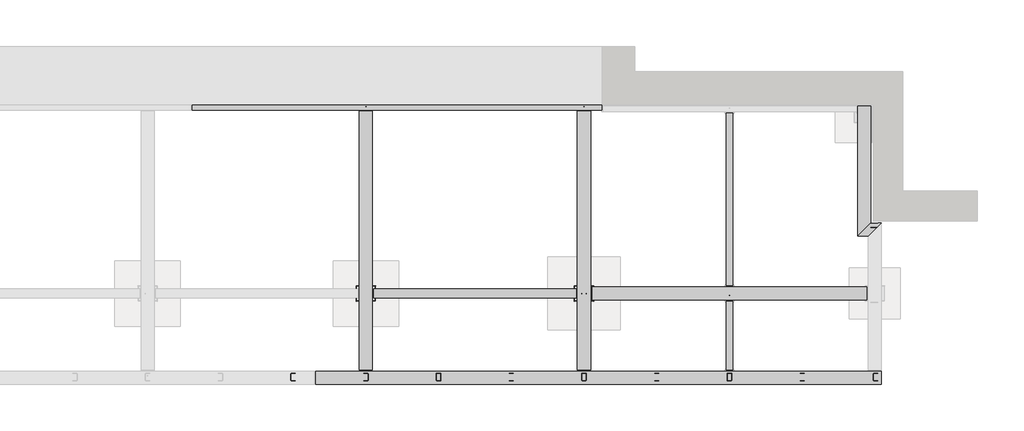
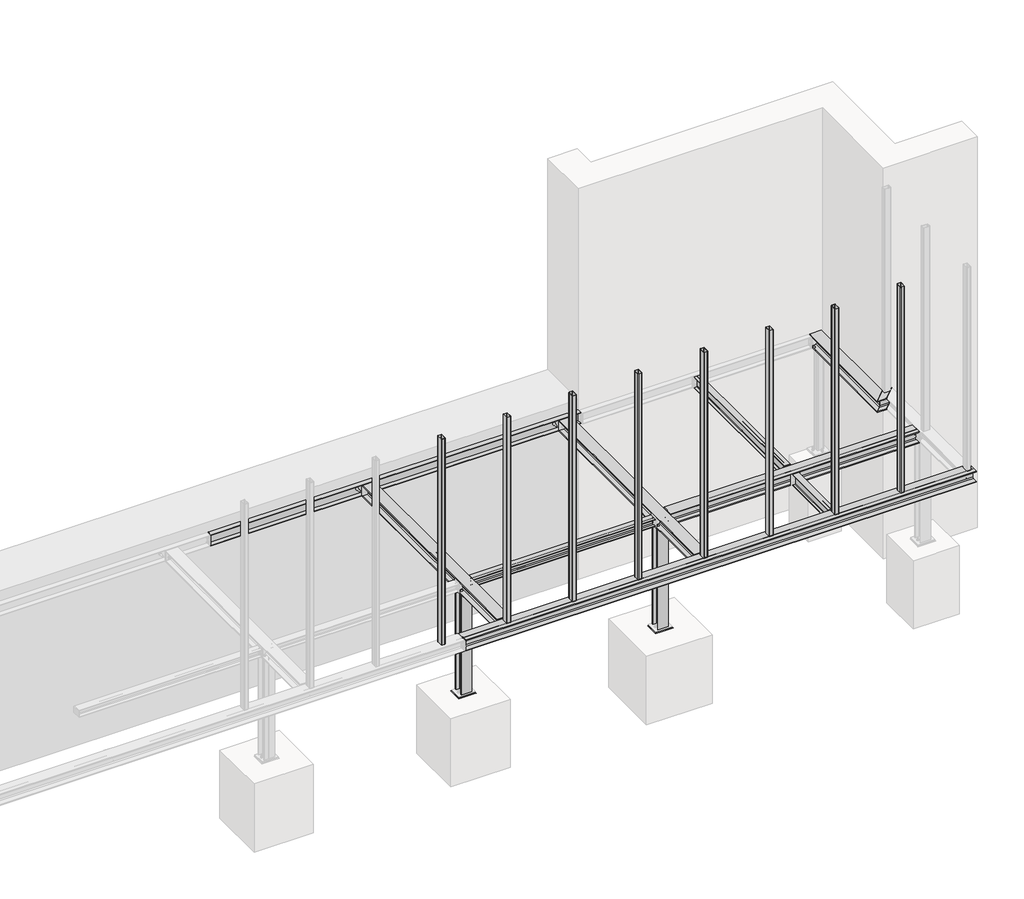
# One storey, part 2 of 31: 10 beams, 10 columns, 2 plates.
"""IFC4 building model written with IfcOpenShell, lengths in millimetres."""

from ifc_helpers import new_model, si_unit, point, frame, frame_2d, origin, place, context, project, spatial, polyline, circle_curve, ellipse_curve, trimmed, segment, composite_curve, outline, extrude, faceted_brep, element, save
from ifc_brep_helpers import plane_surface, revolved_surface, advanced_brep

model = new_model("IFC4")

# Units and contexts
model_context = context("Model", 3, world=origin())
ifc_project = project(units=[si_unit("LENGTHUNIT", "METRE", prefix="MILLI")], contexts=[model_context])

# Site, building, storey
site = spatial("IfcSite", under=ifc_project)
building = spatial("IfcBuilding", under=site)
storey = spatial("IfcBuildingStorey", under=building, Name="Základy", Elevation=-1200.0)

# Beams
placement = place(None, origin())
element("IfcBeam", 1, ObjectType="HEA120", at=placement, inside=storey, context=model_context, shape_type="SweptSolid", body=[
    extrude(outline(composite_curve([segment(polyline([(1200.0, -193.0), (1320.0, -193.0), (1320.0, -201.0), (1274.5, -201.0)]), True, "CONTINUOUS"), segment(trimmed(circle_curve(frame_2d((1274.5, -213.0)), 12.0), [point((1274.5, -201.0))], [point((1262.5, -213.0))], True, "CARTESIAN"), True, "CONTINUOUS"), segment(polyline([(1262.5, -213.0), (1262.5, -287.0)]), True, "CONTINUOUS"), segment(trimmed(circle_curve(frame_2d((1274.5, -287.0)), 12.0), [point((1262.5, -287.0))], [point((1274.5, -299.0))], True, "CARTESIAN"), True, "CONTINUOUS"), segment(polyline([(1274.5, -299.0), (1320.0, -299.0), (1320.0, -307.0), (1200.0, -307.0), (1200.0, -299.0), (1245.5, -299.0)]), True, "CONTINUOUS"), segment(trimmed(circle_curve(frame_2d((1245.5, -287.0)), 12.0), [point((1245.5, -299.0))], [point((1257.5, -287.0))], True, "CARTESIAN"), True, "CONTINUOUS"), segment(polyline([(1257.5, -287.0), (1257.5, -213.0)]), True, "CONTINUOUS"), segment(trimmed(circle_curve(frame_2d((1245.5, -213.0)), 12.0), [point((1257.5, -213.0))], [point((1245.5, -201.0))], True, "CARTESIAN"), True, "CONTINUOUS"), segment(polyline([(1245.5, -201.0), (1200.0, -201.0), (1200.0, -193.0)]), True, "CONTINUOUS")], self_intersect=False)), frame((9160.0, 0.0, 0.0), z_axis=(1.0, 0.0, 0.0), x_axis=(0.0, 1.0, 0.0)), (0.0, 0.0, 1.0), 2780.0),
])
element("IfcBeam", 2, ObjectType="HEB180", at=placement, inside=storey, context=model_context, shape_type="AdvancedBrep", body=[
    advanced_brep(
    [(15960.0, 2050.0, -160.0), (16140.0, 2230.0, -160.0), (15995.0, 2230.0, -160.0), (15815.0, 2050.0, -160.0), (15960.0, 2050.0, -174.0), (15815.0, 2050.0, -174.0), (16030.75, 2120.75, -174.0), (15885.75, 2120.75, -174.0), (16045.75, 2135.75, -189.0), (15900.75, 2135.75, -189.0), (16045.75, 2135.75, -311.0), (15900.75, 2135.75, -311.0), (16030.75, 2120.75, -326.0), (15885.75, 2120.75, -326.0), (15960.0, 2050.0, -326.0), (15815.0, 2050.0, -326.0), (15960.0, 2050.0, -340.0), (15815.0, 2050.0, -340.0), (16140.0, 2230.0, -340.0), (15995.0, 2230.0, -340.0), (16140.0, 2230.0, -326.0), (15995.0, 2230.0, -326.0), (16069.25, 2159.25, -326.0), (15924.25, 2159.25, -326.0), (16054.25, 2144.25, -311.0), (15909.25, 2144.25, -311.0), (16054.25, 2144.25, -189.0), (15909.25, 2144.25, -189.0), (16069.25, 2159.25, -174.0), (15924.25, 2159.25, -174.0), (16140.0, 2230.0, -174.0), (15995.0, 2230.0, -174.0)],
    [
        (0, 1),
        (1, 2),
        (2, 3),
        (3, 0),
        (4, 0),
        (3, 5),
        (5, 4),
        (6, 4),
        (5, 7),
        (7, 6),
        (8, 6, ellipse_curve(frame((16030.75, 2120.75, -189.0), z_axis=(0.7071067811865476, -0.7071067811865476, 0.0), x_axis=(-0.7071067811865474, -0.7071067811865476, 0.0)), 21.2132034, 15.0)),
        (7, 9, ellipse_curve(frame((15885.75, 2120.75, -189.0), z_axis=(-0.7071067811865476, 0.7071067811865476, 0.0), x_axis=(-0.7071067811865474, -0.7071067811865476, 0.0)), 21.2132034, 15.0)),
        (9, 8),
        (10, 8),
        (9, 11),
        (11, 10),
        (12, 10, ellipse_curve(frame((16030.75, 2120.75, -311.0), z_axis=(0.7071067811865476, -0.7071067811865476, 0.0), x_axis=(-0.7071067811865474, -0.7071067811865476, 0.0)), 21.2132034, 15.0)),
        (11, 13, ellipse_curve(frame((15885.75, 2120.75, -311.0), z_axis=(-0.7071067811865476, 0.7071067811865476, 0.0), x_axis=(-0.7071067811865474, -0.7071067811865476, 0.0)), 21.2132034, 15.0)),
        (13, 12),
        (14, 12),
        (13, 15),
        (15, 14),
        (16, 14),
        (15, 17),
        (17, 16),
        (18, 16),
        (17, 19),
        (19, 18),
        (20, 18),
        (19, 21),
        (21, 20),
        (22, 20),
        (21, 23),
        (23, 22),
        (24, 22, ellipse_curve(frame((16069.25, 2159.25, -311.0), z_axis=(0.7071067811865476, -0.7071067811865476, 0.0), x_axis=(-0.7071067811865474, -0.7071067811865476, 0.0)), 21.2132034, 15.0)),
        (23, 25, ellipse_curve(frame((15924.25, 2159.25, -311.0), z_axis=(-0.7071067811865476, 0.7071067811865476, 0.0), x_axis=(-0.7071067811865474, -0.7071067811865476, 0.0)), 21.2132034, 15.0)),
        (25, 24),
        (26, 24),
        (25, 27),
        (27, 26),
        (28, 26, ellipse_curve(frame((16069.25, 2159.25, -189.0), z_axis=(0.7071067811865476, -0.7071067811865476, 0.0), x_axis=(-0.7071067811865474, -0.7071067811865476, 0.0)), 21.2132034, 15.0)),
        (27, 29, ellipse_curve(frame((15924.25, 2159.25, -189.0), z_axis=(-0.7071067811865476, 0.7071067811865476, 0.0), x_axis=(-0.7071067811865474, -0.7071067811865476, 0.0)), 21.2132034, 15.0)),
        (29, 28),
        (30, 28),
        (29, 31),
        (31, 30),
        (1, 30),
        (31, 2),
    ],
    [
        plane_surface(frame((16150.0, 2230.0, -160.0), z_axis=(0.0, 0.0, 1.0), x_axis=(-1.0, 0.0, 0.0))),
        plane_surface(frame((16150.0, 2050.0, -160.0), z_axis=(0.0, -1.0, 0.0), x_axis=(-1.0, 0.0, 0.0))),
        plane_surface(frame((16150.0, 2050.0, -174.0), z_axis=(0.0, 0.0, -1.0), x_axis=(-1.0, 0.0, 0.0))),
        revolved_surface(polyline([(15870.750000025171, 2105.75, -189.0), (16045.75, 2105.75, -189.0)]), (15805.0, 2120.75, -189.0), (-1.0, 0.0, 0.0)),
        plane_surface(frame((16150.0, 2135.75, -189.0), z_axis=(0.0, -1.0, 0.0), x_axis=(-1.0, 0.0, 0.0))),
        revolved_surface(polyline([(15870.750000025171, 2105.75, -311.0), (16045.75, 2105.75, -311.0)]), (15805.0, 2120.75, -311.0), (-1.0, 0.0, 0.0)),
        plane_surface(frame((16150.0, 2120.75, -326.0), z_axis=(0.0, 0.0, 1.0), x_axis=(-1.0, 0.0, 0.0))),
        plane_surface(frame((16150.0, 2050.0, -326.0), z_axis=(0.0, -1.0, 0.0), x_axis=(-1.0, 0.0, 0.0))),
        plane_surface(frame((16150.0, 2050.0, -340.0), z_axis=(0.0, 0.0, -1.0), x_axis=(-1.0, 0.0, 0.0))),
        plane_surface(frame((16150.0, 2230.0, -340.0), z_axis=(0.0, 1.0, 0.0), x_axis=(-1.0, 0.0, 0.0))),
        plane_surface(frame((16150.0, 2230.0, -326.0), z_axis=(0.0, 0.0, 1.0), x_axis=(-1.0, 0.0, 0.0))),
        revolved_surface(polyline([(15909.25, 2144.25, -311.0), (16084.249999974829, 2144.25, -311.0)]), (15805.0, 2159.25, -311.0), (-1.0, 0.0, 0.0)),
        plane_surface(frame((16150.0, 2144.25, -311.0), z_axis=(0.0, 1.0, 0.0), x_axis=(-1.0, 0.0, 0.0))),
        revolved_surface(polyline([(15909.25, 2144.25, -189.0), (16084.249999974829, 2144.25, -189.0)]), (15805.0, 2159.25, -189.0), (-1.0, 0.0, 0.0)),
        plane_surface(frame((16150.0, 2159.25, -174.0), z_axis=(0.0, 0.0, -1.0), x_axis=(-1.0, 0.0, 0.0))),
        plane_surface(frame((16150.0, 2230.0, -174.0), z_axis=(0.0, 1.0, 0.0), x_axis=(-1.0, 0.0, 0.0))),
        plane_surface(frame((16150.0, 2240.0, -160.0), z_axis=(0.7071067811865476, -0.7071067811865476, 0.0), x_axis=(0.7071067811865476, 0.7071067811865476, 0.0))),
        plane_surface(frame((15805.0, 2040.0, -160.0), z_axis=(-0.7071067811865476, 0.7071067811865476, 0.0), x_axis=(0.7071067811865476, 0.7071067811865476, 0.0))),
    ],
    [
        (0, [[1, 2, 3, 4]]),
        (1, [[5, -4, 6, 7]]),
        (2, [[8, -7, 9, 10]]),
        (3, [[11, -10, 12, 13]]),
        (4, [[14, -13, 15, 16]]),
        (5, [[17, -16, 18, 19]]),
        (6, [[20, -19, 21, 22]]),
        (7, [[23, -22, 24, 25]]),
        (8, [[26, -25, 27, 28]]),
        (9, [[29, -28, 30, 31]]),
        (10, [[32, -31, 33, 34]]),
        (11, [[35, -34, 36, 37]]),
        (12, [[38, -37, 39, 40]]),
        (13, [[41, -40, 42, 43]]),
        (14, [[44, -43, 45, 46]]),
        (15, [[47, -46, 48, -2]]),
        (16, [[-1, -5, -8, -11, -14, -17, -20, -23, -26, -29, -32, -35, -38, -41, -44, -47]]),
        (17, [[-3, -48, -45, -42, -39, -36, -33, -30, -27, -24, -21, -18, -15, -12, -9, -6]]),
    ],
),
])
element("IfcBeam", 3, ObjectType="HEB180", at=placement, inside=storey, context=model_context, shape_type="SweptSolid", body=[
    extrude(outline(composite_curve([segment(polyline([(-340.0, 9140.0), (-326.0, 9140.0), (-326.0, 9069.25)]), True, "CONTINUOUS"), segment(trimmed(circle_curve(frame_2d((-311.0, 9069.25)), 15.0), [point((-326.0, 9069.25))], [point((-311.0, 9054.25))], True, "CARTESIAN"), True, "CONTINUOUS"), segment(polyline([(-311.0, 9054.25), (-189.0, 9054.25)]), True, "CONTINUOUS"), segment(trimmed(circle_curve(frame_2d((-189.0, 9069.25)), 15.0), [point((-189.0, 9054.25))], [point((-174.0, 9069.25))], True, "CARTESIAN"), True, "CONTINUOUS"), segment(polyline([(-174.0, 9069.25), (-174.0, 9140.0), (-160.0, 9140.0), (-160.0, 8960.0), (-174.0, 8960.0), (-174.0, 9030.75)]), True, "CONTINUOUS"), segment(trimmed(circle_curve(frame_2d((-189.0, 9030.75)), 15.0), [point((-174.0, 9030.75))], [point((-189.0, 9045.75))], True, "CARTESIAN"), True, "CONTINUOUS"), segment(polyline([(-189.0, 9045.75), (-311.0, 9045.75)]), True, "CONTINUOUS"), segment(trimmed(circle_curve(frame_2d((-311.0, 9030.75)), 15.0), [point((-311.0, 9045.75))], [point((-326.0, 9030.75))], True, "CARTESIAN"), True, "CONTINUOUS"), segment(polyline([(-326.0, 9030.75), (-326.0, 8960.0), (-340.0, 8960.0), (-340.0, 9140.0)]), True, "CONTINUOUS")], self_intersect=False)), frame((0.0, 210.0, 0.0), z_axis=(0.0, 1.0, 0.0), x_axis=(0.0, 0.0, 1.0)), (0.0, 0.0, 1.0), 3557.0),
])
element("IfcBeam", 4, ObjectType="HEB180", at=placement, inside=storey, context=model_context, shape_type="SweptSolid", body=[
    extrude(outline(composite_curve([segment(polyline([(-340.0, 12140.0), (-326.0, 12140.0), (-326.0, 12069.25)]), True, "CONTINUOUS"), segment(trimmed(circle_curve(frame_2d((-311.0, 12069.25)), 15.0), [point((-326.0, 12069.25))], [point((-311.0, 12054.25))], True, "CARTESIAN"), True, "CONTINUOUS"), segment(polyline([(-311.0, 12054.25), (-189.0, 12054.25)]), True, "CONTINUOUS"), segment(trimmed(circle_curve(frame_2d((-189.0, 12069.25)), 15.0), [point((-189.0, 12054.25))], [point((-174.0, 12069.25))], True, "CARTESIAN"), True, "CONTINUOUS"), segment(polyline([(-174.0, 12069.25), (-174.0, 12140.0), (-160.0, 12140.0), (-160.0, 11960.0), (-174.0, 11960.0), (-174.0, 12030.75)]), True, "CONTINUOUS"), segment(trimmed(circle_curve(frame_2d((-189.0, 12030.75)), 15.0), [point((-174.0, 12030.75))], [point((-189.0, 12045.75))], True, "CARTESIAN"), True, "CONTINUOUS"), segment(polyline([(-189.0, 12045.75), (-311.0, 12045.75)]), True, "CONTINUOUS"), segment(trimmed(circle_curve(frame_2d((-311.0, 12030.75)), 15.0), [point((-311.0, 12045.75))], [point((-326.0, 12030.75))], True, "CARTESIAN"), True, "CONTINUOUS"), segment(polyline([(-326.0, 12030.75), (-326.0, 11960.0), (-340.0, 11960.0), (-340.0, 12140.0)]), True, "CONTINUOUS")], self_intersect=False)), frame((0.0, 210.0, 0.0), z_axis=(0.0, 1.0, 0.0), x_axis=(0.0, 0.0, 1.0)), (0.0, 0.0, 1.0), 3557.0),
])
element("IfcBeam", 5, ObjectType="HEB180", at=placement, inside=storey, context=model_context, shape_type="AdvancedBrep", body=[
    advanced_brep(
    [(15995.0, 3840.0, -340.0), (15815.0, 3840.0, -340.0), (15815.0, 3840.0, -326.0), (15885.75, 3840.0, -326.0), (15900.75, 3840.0, -311.0), (15900.75, 3840.0, -189.0), (15885.75, 3840.0, -174.0), (15815.0, 3840.0, -174.0), (15815.0, 3840.0, -160.0), (15995.0, 3840.0, -160.0), (15995.0, 3840.0, -174.0), (15924.25, 3840.0, -174.0), (15909.25, 3840.0, -189.0), (15909.25, 3840.0, -311.0), (15924.25, 3840.0, -326.0), (15995.0, 3840.0, -326.0), (15995.0, 2230.0, -340.0), (15815.0, 2050.0, -340.0), (15815.0, 2050.0, -326.0), (15885.75, 2120.75, -326.0), (15900.75, 2135.75, -311.0), (15900.75, 2135.75, -189.0), (15885.75, 2120.75, -174.0), (15815.0, 2050.0, -174.0), (15815.0, 2050.0, -160.0), (15995.0, 2230.0, -160.0), (15995.0, 2230.0, -174.0), (15924.25, 2159.25, -174.0), (15909.25, 2144.25, -189.0), (15909.25, 2144.25, -311.0), (15924.25, 2159.25, -326.0), (15995.0, 2230.0, -326.0)],
    [
        (0, 1),
        (1, 2),
        (2, 3),
        (3, 4, circle_curve(frame((15885.75, 3840.0, -311.0), z_axis=(0.0, -1.0, 0.0), x_axis=(-1.0, 0.0, 0.0)), 15.0)),
        (4, 5),
        (5, 6, circle_curve(frame((15885.75, 3840.0, -189.0), z_axis=(0.0, -1.0, 0.0), x_axis=(-1.0, 0.0, 0.0)), 15.0)),
        (6, 7),
        (7, 8),
        (8, 9),
        (9, 10),
        (10, 11),
        (11, 12, circle_curve(frame((15924.25, 3840.0, -189.0), z_axis=(0.0, -1.0, 0.0), x_axis=(-1.0, 0.0, 0.0)), 15.0)),
        (12, 13),
        (13, 14, circle_curve(frame((15924.25, 3840.0, -311.0), z_axis=(0.0, -1.0, 0.0), x_axis=(-1.0, 0.0, 0.0)), 15.0)),
        (14, 15),
        (15, 0),
        (0, 16),
        (16, 17),
        (17, 1),
        (17, 18),
        (18, 2),
        (18, 19),
        (19, 3),
        (19, 20, ellipse_curve(frame((15885.75, 2120.75, -311.0), z_axis=(0.7071067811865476, -0.7071067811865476, 0.0), x_axis=(-0.7071067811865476, -0.7071067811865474, 0.0)), 21.2132034, 15.0)),
        (20, 4),
        (20, 21),
        (21, 5),
        (21, 22, ellipse_curve(frame((15885.75, 2120.75, -189.0), z_axis=(0.7071067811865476, -0.7071067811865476, 0.0), x_axis=(-0.7071067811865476, -0.7071067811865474, 0.0)), 21.2132034, 15.0)),
        (22, 6),
        (22, 23),
        (23, 7),
        (23, 24),
        (24, 8),
        (24, 25),
        (25, 9),
        (25, 26),
        (26, 10),
        (26, 27),
        (27, 11),
        (27, 28, ellipse_curve(frame((15924.25, 2159.25, -189.0), z_axis=(0.7071067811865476, -0.7071067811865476, 0.0), x_axis=(-0.7071067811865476, -0.7071067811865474, 0.0)), 21.2132034, 15.0)),
        (28, 12),
        (28, 29),
        (29, 13),
        (29, 30, ellipse_curve(frame((15924.25, 2159.25, -311.0), z_axis=(0.7071067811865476, -0.7071067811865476, 0.0), x_axis=(-0.7071067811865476, -0.7071067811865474, 0.0)), 21.2132034, 15.0)),
        (30, 14),
        (30, 31),
        (31, 15),
        (31, 16),
    ],
    [
        plane_surface(frame((15905.0, 3840.0, -250.0), z_axis=(0.0, 1.0, 0.0), x_axis=(0.0, 0.0, 1.0))),
        plane_surface(frame((15995.0, 3840.0, -340.0), z_axis=(0.0, 0.0, -1.0), x_axis=(0.0, -1.0, 0.0))),
        plane_surface(frame((15815.0, 3840.0, -340.0), z_axis=(-1.0, 0.0, 0.0), x_axis=(0.0, -1.0, 0.0))),
        plane_surface(frame((15815.0, 3840.0, -326.0), z_axis=(0.0, 0.0, 1.0), x_axis=(0.0, -1.0, 0.0))),
        revolved_surface(polyline([(15870.75, 2105.7500000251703, -311.0), (15870.75, 3840.0, -311.0)]), (15885.75, 2040.0, -311.0), (0.0, -1.0, 0.0)),
        plane_surface(frame((15900.75, 3840.0, -311.0), z_axis=(-1.0, 0.0, 0.0), x_axis=(0.0, -1.0, 0.0))),
        revolved_surface(polyline([(15870.75, 2105.7500000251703, -189.0), (15870.75, 3840.0, -189.0)]), (15885.75, 2040.0, -189.0), (0.0, -1.0, 0.0)),
        plane_surface(frame((15885.75, 3840.0, -174.0), z_axis=(0.0, 0.0, -1.0), x_axis=(0.0, -1.0, 0.0))),
        plane_surface(frame((15815.0, 3840.0, -174.0), z_axis=(-1.0, 0.0, 0.0), x_axis=(0.0, -1.0, 0.0))),
        plane_surface(frame((15815.0, 3840.0, -160.0), z_axis=(0.0, 0.0, 1.0), x_axis=(0.0, -1.0, 0.0))),
        plane_surface(frame((15995.0, 3840.0, -160.0), z_axis=(1.0, 0.0, 0.0), x_axis=(0.0, -1.0, 0.0))),
        plane_surface(frame((15995.0, 3840.0, -174.0), z_axis=(0.0, 0.0, -1.0), x_axis=(0.0, -1.0, 0.0))),
        revolved_surface(polyline([(15909.25, 2144.25, -189.0), (15909.25, 3840.0, -189.0)]), (15924.25, 2040.0, -189.0), (0.0, -1.0, 0.0)),
        plane_surface(frame((15909.25, 3840.0, -189.0), z_axis=(1.0, 0.0, 0.0), x_axis=(0.0, -1.0, 0.0))),
        revolved_surface(polyline([(15909.25, 2144.25, -311.0), (15909.25, 3840.0, -311.0)]), (15924.25, 2040.0, -311.0), (0.0, -1.0, 0.0)),
        plane_surface(frame((15924.25, 3840.0, -326.0), z_axis=(0.0, 0.0, 1.0), x_axis=(0.0, -1.0, 0.0))),
        plane_surface(frame((15995.0, 3840.0, -326.0), z_axis=(1.0, 0.0, 0.0), x_axis=(0.0, -1.0, 0.0))),
        plane_surface(frame((16005.0, 2240.0, -160.0), z_axis=(0.7071067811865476, -0.7071067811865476, 0.0), x_axis=(0.7071067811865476, 0.7071067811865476, 0.0))),
    ],
    [
        (0, [[1, 2, 3, 4, 5, 6, 7, 8, 9, 10, 11, 12, 13, 14, 15, 16]]),
        (1, [[-1, 17, 18, 19]]),
        (2, [[-2, -19, 20, 21]]),
        (3, [[-3, -21, 22, 23]]),
        (4, [[-4, -23, 24, 25]]),
        (5, [[-5, -25, 26, 27]]),
        (6, [[-6, -27, 28, 29]]),
        (7, [[-7, -29, 30, 31]]),
        (8, [[-8, -31, 32, 33]]),
        (9, [[-9, -33, 34, 35]]),
        (10, [[-10, -35, 36, 37]]),
        (11, [[-11, -37, 38, 39]]),
        (12, [[-12, -39, 40, 41]]),
        (13, [[-13, -41, 42, 43]]),
        (14, [[-14, -43, 44, 45]]),
        (15, [[-15, -45, 46, 47]]),
        (16, [[-16, -47, 48, -17]]),
        (17, [[-18, -48, -46, -44, -42, -40, -38, -36, -34, -32, -30, -28, -26, -24, -22, -20]]),
    ],
),
])
element("IfcBeam", 6, ObjectType="HEB180", at=placement, inside=storey, context=model_context, shape_type="SweptSolid", body=[
    extrude(outline(composite_curve([segment(polyline([(10.0, -160.0), (190.0, -160.0), (190.0, -174.0), (119.25, -174.0)]), True, "CONTINUOUS"), segment(trimmed(circle_curve(frame_2d((119.25, -189.0)), 15.0), [point((119.25, -174.0))], [point((104.25, -189.0))], True, "CARTESIAN"), True, "CONTINUOUS"), segment(polyline([(104.25, -189.0), (104.25, -311.0)]), True, "CONTINUOUS"), segment(trimmed(circle_curve(frame_2d((119.25, -311.0)), 15.0), [point((104.25, -311.0))], [point((119.25, -326.0))], True, "CARTESIAN"), True, "CONTINUOUS"), segment(polyline([(119.25, -326.0), (190.0, -326.0), (190.0, -340.0), (10.0, -340.0), (10.0, -326.0), (80.75, -326.0)]), True, "CONTINUOUS"), segment(trimmed(circle_curve(frame_2d((80.75, -311.0)), 15.0), [point((80.75, -326.0))], [point((95.75, -311.0))], True, "CARTESIAN"), True, "CONTINUOUS"), segment(polyline([(95.75, -311.0), (95.75, -189.0)]), True, "CONTINUOUS"), segment(trimmed(circle_curve(frame_2d((80.75, -189.0)), 15.0), [point((95.75, -189.0))], [point((80.75, -174.0))], True, "CARTESIAN"), True, "CONTINUOUS"), segment(polyline([(80.75, -174.0), (10.0, -174.0), (10.0, -160.0)]), True, "CONTINUOUS")], self_intersect=False)), frame((8360.0, 0.0, 0.0), z_axis=(1.0, 0.0, 0.0), x_axis=(0.0, 1.0, 0.0)), (0.0, 0.0, 1.0), 7780.0),
])
element("IfcBeam", 7, ObjectType="HEB180", at=placement, inside=storey, context=model_context, shape_type="SweptSolid", body=[
    extrude(outline(composite_curve([segment(polyline([(1170.0, -160.0), (1350.0, -160.0), (1350.0, -174.0), (1279.25, -174.0)]), True, "CONTINUOUS"), segment(trimmed(circle_curve(frame_2d((1279.25, -189.0)), 15.0), [point((1279.25, -174.0))], [point((1264.25, -189.0))], True, "CARTESIAN"), True, "CONTINUOUS"), segment(polyline([(1264.25, -189.0), (1264.25, -311.0)]), True, "CONTINUOUS"), segment(trimmed(circle_curve(frame_2d((1279.25, -311.0)), 15.0), [point((1264.25, -311.0))], [point((1279.25, -326.0))], True, "CARTESIAN"), True, "CONTINUOUS"), segment(polyline([(1279.25, -326.0), (1350.0, -326.0), (1350.0, -340.0), (1170.0, -340.0), (1170.0, -326.0), (1240.75, -326.0)]), True, "CONTINUOUS"), segment(trimmed(circle_curve(frame_2d((1240.75, -311.0)), 15.0), [point((1240.75, -326.0))], [point((1255.75, -311.0))], True, "CARTESIAN"), True, "CONTINUOUS"), segment(polyline([(1255.75, -311.0), (1255.75, -189.0)]), True, "CONTINUOUS"), segment(trimmed(circle_curve(frame_2d((1240.75, -189.0)), 15.0), [point((1255.75, -189.0))], [point((1240.75, -174.0))], True, "CARTESIAN"), True, "CONTINUOUS"), segment(polyline([(1240.75, -174.0), (1170.0, -174.0), (1170.0, -160.0)]), True, "CONTINUOUS")], self_intersect=False)), frame((12160.0, 0.0, 0.0), z_axis=(1.0, 0.0, 0.0), x_axis=(0.0, 1.0, 0.0)), (0.0, 0.0, 1.0), 3780.0),
])
element("IfcBeam", 8, ObjectType="IPE180", at=placement, inside=storey, context=model_context, shape_type="SweptSolid", body=[
    extrude(outline(composite_curve([segment(polyline([(-340.0, 14095.5), (-332.0, 14095.5), (-332.0, 14061.6500001)]), True, "CONTINUOUS"), segment(trimmed(circle_curve(frame_2d((-323.0, 14061.6500001)), 9.0), [point((-332.0, 14061.6500001))], [point((-323.0, 14052.6500001))], True, "CARTESIAN"), True, "CONTINUOUS"), segment(polyline([(-323.0, 14052.6500001), (-177.0, 14052.6500001)]), True, "CONTINUOUS"), segment(trimmed(circle_curve(frame_2d((-177.0, 14061.6500001)), 9.0), [point((-177.0, 14052.6500001))], [point((-168.0, 14061.6500001))], True, "CARTESIAN"), True, "CONTINUOUS"), segment(polyline([(-168.0, 14061.6500001), (-168.0, 14095.5), (-160.0, 14095.5), (-160.0, 14004.5), (-168.0, 14004.5), (-168.0, 14038.3499999)]), True, "CONTINUOUS"), segment(trimmed(circle_curve(frame_2d((-177.0, 14038.3499999)), 9.0), [point((-168.0, 14038.3499999))], [point((-177.0, 14047.3499999))], True, "CARTESIAN"), True, "CONTINUOUS"), segment(polyline([(-177.0, 14047.3499999), (-323.0, 14047.3499999)]), True, "CONTINUOUS"), segment(trimmed(circle_curve(frame_2d((-323.0, 14038.3499999)), 9.0), [point((-323.0, 14047.3499999))], [point((-332.0, 14038.3499999))], True, "CARTESIAN"), True, "CONTINUOUS"), segment(polyline([(-332.0, 14038.3499999), (-332.0, 14004.5), (-340.0, 14004.5), (-340.0, 14095.5)]), True, "CONTINUOUS")], self_intersect=False)), frame((0.0, 210.0, 0.0), z_axis=(0.0, 1.0, 0.0), x_axis=(0.0, 0.0, 1.0)), (0.0, 0.0, 1.0), 940.0),
])
element("IfcBeam", 9, ObjectType="IPE180", at=placement, inside=storey, context=model_context, shape_type="SweptSolid", body=[
    extrude(outline(composite_curve([segment(polyline([(-340.0, 14004.5), (-340.0, 14095.5), (-332.0, 14095.5), (-332.0, 14061.6500001)]), True, "CONTINUOUS"), segment(trimmed(circle_curve(frame_2d((-323.0, 14061.6500001)), 9.0), [point((-332.0, 14061.6500001))], [point((-323.0, 14052.6500001))], True, "CARTESIAN"), True, "CONTINUOUS"), segment(polyline([(-323.0, 14052.6500001), (-177.0, 14052.6500001)]), True, "CONTINUOUS"), segment(trimmed(circle_curve(frame_2d((-177.0, 14061.6500001)), 9.0), [point((-177.0, 14052.6500001))], [point((-168.0, 14061.6500001))], True, "CARTESIAN"), True, "CONTINUOUS"), segment(polyline([(-168.0, 14061.6500001), (-168.0, 14095.5), (-160.0, 14095.5), (-160.0, 14004.5), (-168.0, 14004.5), (-168.0, 14038.3499999)]), True, "CONTINUOUS"), segment(trimmed(circle_curve(frame_2d((-177.0, 14038.3499999)), 9.0), [point((-168.0, 14038.3499999))], [point((-177.0, 14047.3499999))], True, "CARTESIAN"), True, "CONTINUOUS"), segment(polyline([(-177.0, 14047.3499999), (-323.0, 14047.3499999)]), True, "CONTINUOUS"), segment(trimmed(circle_curve(frame_2d((-323.0, 14038.3499999)), 9.0), [point((-323.0, 14047.3499999))], [point((-332.0, 14038.3499999))], True, "CARTESIAN"), True, "CONTINUOUS"), segment(polyline([(-332.0, 14038.3499999), (-332.0, 14004.5), (-340.0, 14004.5)]), True, "CONTINUOUS")], self_intersect=False)), frame((0.0, 1370.0, 0.0), z_axis=(0.0, 1.0, 0.0), x_axis=(0.0, 0.0, 1.0)), (0.0, 0.0, 1.0), 2375.0),
])
element("IfcBeam", 10, ObjectType="UPE180", at=placement, inside=storey, context=model_context, shape_type="SweptSolid", body=[
    extrude(outline(polyline([(3860.0, -160.0), (3860.0, -340.0), (3785.0, -340.0), (3785.0, -329.5), (3854.5, -329.5), (3854.5, -170.5), (3785.0, -170.5), (3785.0, -160.0), (3860.0, -160.0)])), frame((6660.0, 0.0, 0.0), z_axis=(1.0, 0.0, 0.0), x_axis=(0.0, 1.0, 0.0)), (0.0, 0.0, 1.0), 5635.0),
])

# Columns
element("IfcColumn", 11, ObjectType="RHS100*60*3.2", at=placement, inside=storey, context=model_context, shape_type="SweptSolid", body=[
    extrude(outline(composite_curve([segment(polyline([(9073.6, 60.0), (9026.4, 60.0)]), True, "CONTINUOUS"), segment(trimmed(circle_curve(frame_2d((9026.4, 66.4)), 6.4), [point((9026.4, 60.0))], [point((9020.0, 66.4))], False, "CARTESIAN"), True, "CONTINUOUS"), segment(polyline([(9020.0, 66.4), (9020.0, 153.6)]), True, "CONTINUOUS"), segment(trimmed(circle_curve(frame_2d((9026.4, 153.6)), 6.4), [point((9020.0, 153.6))], [point((9026.4, 160.0))], False, "CARTESIAN"), True, "CONTINUOUS"), segment(polyline([(9026.4, 160.0), (9073.6, 160.0)]), True, "CONTINUOUS"), segment(trimmed(circle_curve(frame_2d((9073.6, 153.6)), 6.4), [point((9073.6, 160.0))], [point((9080.0, 153.6))], False, "CARTESIAN"), True, "CONTINUOUS"), segment(polyline([(9080.0, 153.6), (9080.0, 66.4)]), True, "CONTINUOUS"), segment(trimmed(circle_curve(frame_2d((9073.6, 66.4)), 6.4), [point((9080.0, 66.4))], [point((9073.6, 60.0))], False, "CARTESIAN"), True, "CONTINUOUS")], self_intersect=False), holes=[composite_curve([segment(trimmed(circle_curve(frame_2d((9073.6, 66.4)), 3.2), [point((9073.6, 63.2))], [point((9076.8, 66.4))], True, "CARTESIAN"), True, "CONTINUOUS"), segment(polyline([(9076.8, 66.4), (9076.8, 153.6)]), True, "CONTINUOUS"), segment(trimmed(circle_curve(frame_2d((9073.6, 153.6)), 3.2), [point((9076.8, 153.6))], [point((9073.6, 156.8))], True, "CARTESIAN"), True, "CONTINUOUS"), segment(polyline([(9073.6, 156.8), (9026.4, 156.8)]), True, "CONTINUOUS"), segment(trimmed(circle_curve(frame_2d((9026.4, 153.6)), 3.2), [point((9026.4, 156.8))], [point((9023.2, 153.6))], True, "CARTESIAN"), True, "CONTINUOUS"), segment(polyline([(9023.2, 153.6), (9023.2, 66.4)]), True, "CONTINUOUS"), segment(trimmed(circle_curve(frame_2d((9026.4, 66.4)), 3.2), [point((9023.2, 66.4))], [point((9026.4, 63.2))], True, "CARTESIAN"), True, "CONTINUOUS"), segment(polyline([(9026.4, 63.2), (9073.6, 63.2)]), True, "CONTINUOUS")], self_intersect=False)]), frame((0.0, 0.0, -160.0), z_axis=(0.0, 0.0, 1.0), x_axis=(1.0, 0.0, 0.0)), (0.0, 0.0, 1.0), 3320.0),
])
element("IfcColumn", 12, ObjectType="RHS100*60*3.2", at=placement, inside=storey, context=model_context, shape_type="SweptSolid", body=[
    extrude(outline(composite_curve([segment(polyline([(12073.6, 60.0), (12026.4, 60.0)]), True, "CONTINUOUS"), segment(trimmed(circle_curve(frame_2d((12026.4, 66.4)), 6.4), [point((12026.4, 60.0))], [point((12020.0, 66.4))], False, "CARTESIAN"), True, "CONTINUOUS"), segment(polyline([(12020.0, 66.4), (12020.0, 153.6)]), True, "CONTINUOUS"), segment(trimmed(circle_curve(frame_2d((12026.4, 153.6)), 6.4), [point((12020.0, 153.6))], [point((12026.4, 160.0))], False, "CARTESIAN"), True, "CONTINUOUS"), segment(polyline([(12026.4, 160.0), (12073.6, 160.0)]), True, "CONTINUOUS"), segment(trimmed(circle_curve(frame_2d((12073.6, 153.6)), 6.4), [point((12073.6, 160.0))], [point((12080.0, 153.6))], False, "CARTESIAN"), True, "CONTINUOUS"), segment(polyline([(12080.0, 153.6), (12080.0, 66.4)]), True, "CONTINUOUS"), segment(trimmed(circle_curve(frame_2d((12073.6, 66.4)), 6.4), [point((12080.0, 66.4))], [point((12073.6, 60.0))], False, "CARTESIAN"), True, "CONTINUOUS")], self_intersect=False), holes=[composite_curve([segment(trimmed(circle_curve(frame_2d((12073.6, 66.4)), 3.2), [point((12073.6, 63.2))], [point((12076.8, 66.4))], True, "CARTESIAN"), True, "CONTINUOUS"), segment(polyline([(12076.8, 66.4), (12076.8, 153.6)]), True, "CONTINUOUS"), segment(trimmed(circle_curve(frame_2d((12073.6, 153.6)), 3.2), [point((12076.8, 153.6))], [point((12073.6, 156.8))], True, "CARTESIAN"), True, "CONTINUOUS"), segment(polyline([(12073.6, 156.8), (12026.4, 156.8)]), True, "CONTINUOUS"), segment(trimmed(circle_curve(frame_2d((12026.4, 153.6)), 3.2), [point((12026.4, 156.8))], [point((12023.2, 153.6))], True, "CARTESIAN"), True, "CONTINUOUS"), segment(polyline([(12023.2, 153.6), (12023.2, 66.4)]), True, "CONTINUOUS"), segment(trimmed(circle_curve(frame_2d((12026.4, 66.4)), 3.2), [point((12023.2, 66.4))], [point((12026.4, 63.2))], True, "CARTESIAN"), True, "CONTINUOUS"), segment(polyline([(12026.4, 63.2), (12073.6, 63.2)]), True, "CONTINUOUS")], self_intersect=False)]), frame((0.0, 0.0, -160.0), z_axis=(0.0, 0.0, 1.0), x_axis=(1.0, 0.0, 0.0)), (0.0, 0.0, 1.0), 3320.0),
])
element("IfcColumn", 13, ObjectType="RHS100*60*3.2", at=placement, inside=storey, context=model_context, shape_type="SweptSolid", body=[
    extrude(outline(composite_curve([segment(polyline([(8073.6, 60.0), (8026.4, 60.0)]), True, "CONTINUOUS"), segment(trimmed(circle_curve(frame_2d((8026.4, 66.4)), 6.4), [point((8026.4, 60.0))], [point((8020.0, 66.4))], False, "CARTESIAN"), True, "CONTINUOUS"), segment(polyline([(8020.0, 66.4), (8020.0, 153.6)]), True, "CONTINUOUS"), segment(trimmed(circle_curve(frame_2d((8026.4, 153.6)), 6.4), [point((8020.0, 153.6))], [point((8026.4, 160.0))], False, "CARTESIAN"), True, "CONTINUOUS"), segment(polyline([(8026.4, 160.0), (8073.6, 160.0)]), True, "CONTINUOUS"), segment(trimmed(circle_curve(frame_2d((8073.6, 153.6)), 6.4), [point((8073.6, 160.0))], [point((8080.0, 153.6))], False, "CARTESIAN"), True, "CONTINUOUS"), segment(polyline([(8080.0, 153.6), (8080.0, 66.4)]), True, "CONTINUOUS"), segment(trimmed(circle_curve(frame_2d((8073.6, 66.4)), 6.4), [point((8080.0, 66.4))], [point((8073.6, 60.0))], False, "CARTESIAN"), True, "CONTINUOUS")], self_intersect=False), holes=[composite_curve([segment(trimmed(circle_curve(frame_2d((8073.6, 66.4)), 3.2), [point((8073.6, 63.2))], [point((8076.8, 66.4))], True, "CARTESIAN"), True, "CONTINUOUS"), segment(polyline([(8076.8, 66.4), (8076.8, 153.6)]), True, "CONTINUOUS"), segment(trimmed(circle_curve(frame_2d((8073.6, 153.6)), 3.2), [point((8076.8, 153.6))], [point((8073.6, 156.8))], True, "CARTESIAN"), True, "CONTINUOUS"), segment(polyline([(8073.6, 156.8), (8026.4, 156.8)]), True, "CONTINUOUS"), segment(trimmed(circle_curve(frame_2d((8026.4, 153.6)), 3.2), [point((8026.4, 156.8))], [point((8023.2, 153.6))], True, "CARTESIAN"), True, "CONTINUOUS"), segment(polyline([(8023.2, 153.6), (8023.2, 66.4)]), True, "CONTINUOUS"), segment(trimmed(circle_curve(frame_2d((8026.4, 66.4)), 3.2), [point((8023.2, 66.4))], [point((8026.4, 63.2))], True, "CARTESIAN"), True, "CONTINUOUS"), segment(polyline([(8026.4, 63.2), (8073.6, 63.2)]), True, "CONTINUOUS")], self_intersect=False)]), frame((0.0, 0.0, -160.0), z_axis=(0.0, 0.0, 1.0), x_axis=(1.0, 0.0, 0.0)), (0.0, 0.0, 1.0), 3320.0),
])
element("IfcColumn", 14, ObjectType="RHS100*60*3.2", at=placement, inside=storey, context=model_context, shape_type="SweptSolid", body=[
    extrude(outline(composite_curve([segment(polyline([(11073.6, 60.0), (11026.4, 60.0)]), True, "CONTINUOUS"), segment(trimmed(circle_curve(frame_2d((11026.4, 66.4)), 6.4), [point((11026.4, 60.0))], [point((11020.0, 66.4))], False, "CARTESIAN"), True, "CONTINUOUS"), segment(polyline([(11020.0, 66.4), (11020.0, 153.6)]), True, "CONTINUOUS"), segment(trimmed(circle_curve(frame_2d((11026.4, 153.6)), 6.4), [point((11020.0, 153.6))], [point((11026.4, 160.0))], False, "CARTESIAN"), True, "CONTINUOUS"), segment(polyline([(11026.4, 160.0), (11073.6, 160.0)]), True, "CONTINUOUS"), segment(trimmed(circle_curve(frame_2d((11073.6, 153.6)), 6.4), [point((11073.6, 160.0))], [point((11080.0, 153.6))], False, "CARTESIAN"), True, "CONTINUOUS"), segment(polyline([(11080.0, 153.6), (11080.0, 66.4)]), True, "CONTINUOUS"), segment(trimmed(circle_curve(frame_2d((11073.6, 66.4)), 6.4), [point((11080.0, 66.4))], [point((11073.6, 60.0))], False, "CARTESIAN"), True, "CONTINUOUS")], self_intersect=False), holes=[composite_curve([segment(trimmed(circle_curve(frame_2d((11073.6, 66.4)), 3.2), [point((11073.6, 63.2))], [point((11076.8, 66.4))], True, "CARTESIAN"), True, "CONTINUOUS"), segment(polyline([(11076.8, 66.4), (11076.8, 153.6)]), True, "CONTINUOUS"), segment(trimmed(circle_curve(frame_2d((11073.6, 153.6)), 3.2), [point((11076.8, 153.6))], [point((11073.6, 156.8))], True, "CARTESIAN"), True, "CONTINUOUS"), segment(polyline([(11073.6, 156.8), (11026.4, 156.8)]), True, "CONTINUOUS"), segment(trimmed(circle_curve(frame_2d((11026.4, 153.6)), 3.2), [point((11026.4, 156.8))], [point((11023.2, 153.6))], True, "CARTESIAN"), True, "CONTINUOUS"), segment(polyline([(11023.2, 153.6), (11023.2, 66.4)]), True, "CONTINUOUS"), segment(trimmed(circle_curve(frame_2d((11026.4, 66.4)), 3.2), [point((11023.2, 66.4))], [point((11026.4, 63.2))], True, "CARTESIAN"), True, "CONTINUOUS"), segment(polyline([(11026.4, 63.2), (11073.6, 63.2)]), True, "CONTINUOUS")], self_intersect=False)]), frame((0.0, 0.0, -160.0), z_axis=(0.0, 0.0, 1.0), x_axis=(1.0, 0.0, 0.0)), (0.0, 0.0, 1.0), 3320.0),
])
element("IfcColumn", 15, ObjectType="RHS100*60*3.2", at=placement, inside=storey, context=model_context, shape_type="SweptSolid", body=[
    extrude(outline(composite_curve([segment(polyline([(10073.6, 60.0), (10026.4, 60.0)]), True, "CONTINUOUS"), segment(trimmed(circle_curve(frame_2d((10026.4, 66.4)), 6.4), [point((10026.4, 60.0))], [point((10020.0, 66.4))], False, "CARTESIAN"), True, "CONTINUOUS"), segment(polyline([(10020.0, 66.4), (10020.0, 153.6)]), True, "CONTINUOUS"), segment(trimmed(circle_curve(frame_2d((10026.4, 153.6)), 6.4), [point((10020.0, 153.6))], [point((10026.4, 160.0))], False, "CARTESIAN"), True, "CONTINUOUS"), segment(polyline([(10026.4, 160.0), (10073.6, 160.0)]), True, "CONTINUOUS"), segment(trimmed(circle_curve(frame_2d((10073.6, 153.6)), 6.4), [point((10073.6, 160.0))], [point((10080.0, 153.6))], False, "CARTESIAN"), True, "CONTINUOUS"), segment(polyline([(10080.0, 153.6), (10080.0, 66.4)]), True, "CONTINUOUS"), segment(trimmed(circle_curve(frame_2d((10073.6, 66.4)), 6.4), [point((10080.0, 66.4))], [point((10073.6, 60.0))], False, "CARTESIAN"), True, "CONTINUOUS")], self_intersect=False), holes=[composite_curve([segment(trimmed(circle_curve(frame_2d((10073.6, 66.4)), 3.2), [point((10073.6, 63.2))], [point((10076.8, 66.4))], True, "CARTESIAN"), True, "CONTINUOUS"), segment(polyline([(10076.8, 66.4), (10076.8, 153.6)]), True, "CONTINUOUS"), segment(trimmed(circle_curve(frame_2d((10073.6, 153.6)), 3.2), [point((10076.8, 153.6))], [point((10073.6, 156.8))], True, "CARTESIAN"), True, "CONTINUOUS"), segment(polyline([(10073.6, 156.8), (10026.4, 156.8)]), True, "CONTINUOUS"), segment(trimmed(circle_curve(frame_2d((10026.4, 153.6)), 3.2), [point((10026.4, 156.8))], [point((10023.2, 153.6))], True, "CARTESIAN"), True, "CONTINUOUS"), segment(polyline([(10023.2, 153.6), (10023.2, 66.4)]), True, "CONTINUOUS"), segment(trimmed(circle_curve(frame_2d((10026.4, 66.4)), 3.2), [point((10023.2, 66.4))], [point((10026.4, 63.2))], True, "CARTESIAN"), True, "CONTINUOUS"), segment(polyline([(10026.4, 63.2), (10073.6, 63.2)]), True, "CONTINUOUS")], self_intersect=False)]), frame((0.0, 0.0, -160.0), z_axis=(0.0, 0.0, 1.0), x_axis=(1.0, 0.0, 0.0)), (0.0, 0.0, 1.0), 3320.0),
])
element("IfcColumn", 16, ObjectType="RHS100*60*3.2", at=placement, inside=storey, context=model_context, shape_type="SweptSolid", body=[
    extrude(outline(composite_curve([segment(polyline([(13073.6, 60.0), (13026.4, 60.0)]), True, "CONTINUOUS"), segment(trimmed(circle_curve(frame_2d((13026.4, 66.4)), 6.4), [point((13026.4, 60.0))], [point((13020.0, 66.4))], False, "CARTESIAN"), True, "CONTINUOUS"), segment(polyline([(13020.0, 66.4), (13020.0, 153.6)]), True, "CONTINUOUS"), segment(trimmed(circle_curve(frame_2d((13026.4, 153.6)), 6.4), [point((13020.0, 153.6))], [point((13026.4, 160.0))], False, "CARTESIAN"), True, "CONTINUOUS"), segment(polyline([(13026.4, 160.0), (13073.6, 160.0)]), True, "CONTINUOUS"), segment(trimmed(circle_curve(frame_2d((13073.6, 153.6)), 6.4), [point((13073.6, 160.0))], [point((13080.0, 153.6))], False, "CARTESIAN"), True, "CONTINUOUS"), segment(polyline([(13080.0, 153.6), (13080.0, 66.4)]), True, "CONTINUOUS"), segment(trimmed(circle_curve(frame_2d((13073.6, 66.4)), 6.4), [point((13080.0, 66.4))], [point((13073.6, 60.0))], False, "CARTESIAN"), True, "CONTINUOUS")], self_intersect=False), holes=[composite_curve([segment(trimmed(circle_curve(frame_2d((13073.6, 66.4)), 3.2), [point((13073.6, 63.2))], [point((13076.8, 66.4))], True, "CARTESIAN"), True, "CONTINUOUS"), segment(polyline([(13076.8, 66.4), (13076.8, 153.6)]), True, "CONTINUOUS"), segment(trimmed(circle_curve(frame_2d((13073.6, 153.6)), 3.2), [point((13076.8, 153.6))], [point((13073.6, 156.8))], True, "CARTESIAN"), True, "CONTINUOUS"), segment(polyline([(13073.6, 156.8), (13026.4, 156.8)]), True, "CONTINUOUS"), segment(trimmed(circle_curve(frame_2d((13026.4, 153.6)), 3.2), [point((13026.4, 156.8))], [point((13023.2, 153.6))], True, "CARTESIAN"), True, "CONTINUOUS"), segment(polyline([(13023.2, 153.6), (13023.2, 66.4)]), True, "CONTINUOUS"), segment(trimmed(circle_curve(frame_2d((13026.4, 66.4)), 3.2), [point((13023.2, 66.4))], [point((13026.4, 63.2))], True, "CARTESIAN"), True, "CONTINUOUS"), segment(polyline([(13026.4, 63.2), (13073.6, 63.2)]), True, "CONTINUOUS")], self_intersect=False)]), frame((0.0, 0.0, -160.0), z_axis=(0.0, 0.0, 1.0), x_axis=(1.0, 0.0, 0.0)), (0.0, 0.0, 1.0), 3320.0),
])
element("IfcColumn", 17, ObjectType="RHS100*60*3.2", at=placement, inside=storey, context=model_context, shape_type="SweptSolid", body=[
    extrude(outline(composite_curve([segment(polyline([(14073.6, 60.0), (14026.4, 60.0)]), True, "CONTINUOUS"), segment(trimmed(circle_curve(frame_2d((14026.4, 66.4)), 6.4), [point((14026.4, 60.0))], [point((14020.0, 66.4))], False, "CARTESIAN"), True, "CONTINUOUS"), segment(polyline([(14020.0, 66.4), (14020.0, 153.6)]), True, "CONTINUOUS"), segment(trimmed(circle_curve(frame_2d((14026.4, 153.6)), 6.4), [point((14020.0, 153.6))], [point((14026.4, 160.0))], False, "CARTESIAN"), True, "CONTINUOUS"), segment(polyline([(14026.4, 160.0), (14073.6, 160.0)]), True, "CONTINUOUS"), segment(trimmed(circle_curve(frame_2d((14073.6, 153.6)), 6.4), [point((14073.6, 160.0))], [point((14080.0, 153.6))], False, "CARTESIAN"), True, "CONTINUOUS"), segment(polyline([(14080.0, 153.6), (14080.0, 66.4)]), True, "CONTINUOUS"), segment(trimmed(circle_curve(frame_2d((14073.6, 66.4)), 6.4), [point((14080.0, 66.4))], [point((14073.6, 60.0))], False, "CARTESIAN"), True, "CONTINUOUS")], self_intersect=False), holes=[composite_curve([segment(trimmed(circle_curve(frame_2d((14073.6, 66.4)), 3.2), [point((14073.6, 63.2))], [point((14076.8, 66.4))], True, "CARTESIAN"), True, "CONTINUOUS"), segment(polyline([(14076.8, 66.4), (14076.8, 153.6)]), True, "CONTINUOUS"), segment(trimmed(circle_curve(frame_2d((14073.6, 153.6)), 3.2), [point((14076.8, 153.6))], [point((14073.6, 156.8))], True, "CARTESIAN"), True, "CONTINUOUS"), segment(polyline([(14073.6, 156.8), (14026.4, 156.8)]), True, "CONTINUOUS"), segment(trimmed(circle_curve(frame_2d((14026.4, 153.6)), 3.2), [point((14026.4, 156.8))], [point((14023.2, 153.6))], True, "CARTESIAN"), True, "CONTINUOUS"), segment(polyline([(14023.2, 153.6), (14023.2, 66.4)]), True, "CONTINUOUS"), segment(trimmed(circle_curve(frame_2d((14026.4, 66.4)), 3.2), [point((14023.2, 66.4))], [point((14026.4, 63.2))], True, "CARTESIAN"), True, "CONTINUOUS"), segment(polyline([(14026.4, 63.2), (14073.6, 63.2)]), True, "CONTINUOUS")], self_intersect=False)]), frame((0.0, 0.0, -160.0), z_axis=(0.0, 0.0, 1.0), x_axis=(1.0, 0.0, 0.0)), (0.0, 0.0, 1.0), 3320.0),
])
element("IfcColumn", 18, ObjectType="RHS100*60*3.2", at=placement, inside=storey, context=model_context, shape_type="SweptSolid", body=[
    extrude(outline(composite_curve([segment(polyline([(15073.6, 60.0), (15026.4, 60.0)]), True, "CONTINUOUS"), segment(trimmed(circle_curve(frame_2d((15026.4, 66.4)), 6.4), [point((15026.4, 60.0))], [point((15020.0, 66.4))], False, "CARTESIAN"), True, "CONTINUOUS"), segment(polyline([(15020.0, 66.4), (15020.0, 153.6)]), True, "CONTINUOUS"), segment(trimmed(circle_curve(frame_2d((15026.4, 153.6)), 6.4), [point((15020.0, 153.6))], [point((15026.4, 160.0))], False, "CARTESIAN"), True, "CONTINUOUS"), segment(polyline([(15026.4, 160.0), (15073.6, 160.0)]), True, "CONTINUOUS"), segment(trimmed(circle_curve(frame_2d((15073.6, 153.6)), 6.4), [point((15073.6, 160.0))], [point((15080.0, 153.6))], False, "CARTESIAN"), True, "CONTINUOUS"), segment(polyline([(15080.0, 153.6), (15080.0, 66.4)]), True, "CONTINUOUS"), segment(trimmed(circle_curve(frame_2d((15073.6, 66.4)), 6.4), [point((15080.0, 66.4))], [point((15073.6, 60.0))], False, "CARTESIAN"), True, "CONTINUOUS")], self_intersect=False), holes=[composite_curve([segment(trimmed(circle_curve(frame_2d((15073.6, 66.4)), 3.2), [point((15073.6, 63.2))], [point((15076.8, 66.4))], True, "CARTESIAN"), True, "CONTINUOUS"), segment(polyline([(15076.8, 66.4), (15076.8, 153.6)]), True, "CONTINUOUS"), segment(trimmed(circle_curve(frame_2d((15073.6, 153.6)), 3.2), [point((15076.8, 153.6))], [point((15073.6, 156.8))], True, "CARTESIAN"), True, "CONTINUOUS"), segment(polyline([(15073.6, 156.8), (15026.4, 156.8)]), True, "CONTINUOUS"), segment(trimmed(circle_curve(frame_2d((15026.4, 153.6)), 3.2), [point((15026.4, 156.8))], [point((15023.2, 153.6))], True, "CARTESIAN"), True, "CONTINUOUS"), segment(polyline([(15023.2, 153.6), (15023.2, 66.4)]), True, "CONTINUOUS"), segment(trimmed(circle_curve(frame_2d((15026.4, 66.4)), 3.2), [point((15023.2, 66.4))], [point((15026.4, 63.2))], True, "CARTESIAN"), True, "CONTINUOUS"), segment(polyline([(15026.4, 63.2), (15073.6, 63.2)]), True, "CONTINUOUS")], self_intersect=False)]), frame((0.0, 0.0, -160.0), z_axis=(0.0, 0.0, 1.0), x_axis=(1.0, 0.0, 0.0)), (0.0, 0.0, 1.0), 3320.0),
])
element("IfcColumn", 19, ObjectType="HEA160", at=placement, inside=storey, context=model_context, shape_type="SweptSolid", body=[
    extrude(outline(composite_curve([segment(polyline([(9130.0, 1184.0), (8970.0, 1184.0), (8970.0, 1193.0), (9032.0, 1193.0)]), True, "CONTINUOUS"), segment(trimmed(circle_curve(frame_2d((9032.0, 1208.0)), 15.0), [point((9032.0, 1193.0))], [point((9047.0, 1208.0))], True, "CARTESIAN"), True, "CONTINUOUS"), segment(polyline([(9047.0, 1208.0), (9047.0, 1312.0)]), True, "CONTINUOUS"), segment(trimmed(circle_curve(frame_2d((9032.0, 1312.0)), 15.0), [point((9047.0, 1312.0))], [point((9032.0, 1327.0))], True, "CARTESIAN"), True, "CONTINUOUS"), segment(polyline([(9032.0, 1327.0), (8970.0, 1327.0), (8970.0, 1336.0), (9130.0, 1336.0), (9130.0, 1327.0), (9068.0, 1327.0)]), True, "CONTINUOUS"), segment(trimmed(circle_curve(frame_2d((9068.0, 1312.0)), 15.0), [point((9068.0, 1327.0))], [point((9053.0, 1312.0))], True, "CARTESIAN"), True, "CONTINUOUS"), segment(polyline([(9053.0, 1312.0), (9053.0, 1208.0)]), True, "CONTINUOUS"), segment(trimmed(circle_curve(frame_2d((9068.0, 1208.0)), 15.0), [point((9053.0, 1208.0))], [point((9068.0, 1193.0))], True, "CARTESIAN"), True, "CONTINUOUS"), segment(polyline([(9068.0, 1193.0), (9130.0, 1193.0), (9130.0, 1184.0)]), True, "CONTINUOUS")], self_intersect=False)), frame((0.0, 0.0, -1975.0), z_axis=(0.0, 0.0, 1.0), x_axis=(1.0, 0.0, 0.0)), (0.0, 0.0, 1.0), 1625.0),
])
element("IfcColumn", 20, ObjectType="HEA160", at=placement, inside=storey, context=model_context, shape_type="SweptSolid", body=[
    extrude(outline(composite_curve([segment(polyline([(12130.0, 1184.0), (11970.0, 1184.0), (11970.0, 1193.0), (12032.0, 1193.0)]), True, "CONTINUOUS"), segment(trimmed(circle_curve(frame_2d((12032.0, 1208.0)), 15.0), [point((12032.0, 1193.0))], [point((12047.0, 1208.0))], True, "CARTESIAN"), True, "CONTINUOUS"), segment(polyline([(12047.0, 1208.0), (12047.0, 1312.0)]), True, "CONTINUOUS"), segment(trimmed(circle_curve(frame_2d((12032.0, 1312.0)), 15.0), [point((12047.0, 1312.0))], [point((12032.0, 1327.0))], True, "CARTESIAN"), True, "CONTINUOUS"), segment(polyline([(12032.0, 1327.0), (11970.0, 1327.0), (11970.0, 1336.0), (12130.0, 1336.0), (12130.0, 1327.0), (12068.0, 1327.0)]), True, "CONTINUOUS"), segment(trimmed(circle_curve(frame_2d((12068.0, 1312.0)), 15.0), [point((12068.0, 1327.0))], [point((12053.0, 1312.0))], True, "CARTESIAN"), True, "CONTINUOUS"), segment(polyline([(12053.0, 1312.0), (12053.0, 1208.0)]), True, "CONTINUOUS"), segment(trimmed(circle_curve(frame_2d((12068.0, 1208.0)), 15.0), [point((12053.0, 1208.0))], [point((12068.0, 1193.0))], True, "CARTESIAN"), True, "CONTINUOUS"), segment(polyline([(12068.0, 1193.0), (12130.0, 1193.0), (12130.0, 1184.0)]), True, "CONTINUOUS")], self_intersect=False)), frame((0.0, 0.0, -1975.0), z_axis=(0.0, 0.0, 1.0), x_axis=(1.0, 0.0, 0.0)), (0.0, 0.0, 1.0), 1625.0),
])

# Plates
element("IfcPlate", 21, ObjectType="PL10*212", at=placement, inside=storey, context=model_context, shape_type="Brep", body=[
    faceted_brep([(8925.0, 1356.0, -1990.0), (8925.0, 1164.0, -1990.0), (9175.0, 1164.0, -1990.0), (9175.0, 1356.0, -1990.0), (9185.0, 1154.0, -2000.0), (8915.0, 1154.0, -2000.0), (8915.0, 1366.0, -2000.0), (9185.0, 1366.0, -2000.0)], [[[0, 1, 2, 3]], [[4, 5, 6, 7]], [[5, 4, 2, 1]], [[1, 0, 6, 5]], [[7, 6, 0, 3]], [[3, 2, 4, 7]]]),
])
element("IfcPlate", 22, ObjectType="PL10*212", at=placement, inside=storey, context=model_context, shape_type="Brep", body=[
    faceted_brep([(11925.0, 1356.0, -1990.0), (11925.0, 1164.0, -1990.0), (12175.0, 1164.0, -1990.0), (12175.0, 1356.0, -1990.0), (12185.0, 1154.0, -2000.0), (11915.0, 1154.0, -2000.0), (11915.0, 1366.0, -2000.0), (12185.0, 1366.0, -2000.0)], [[[0, 1, 2, 3]], [[4, 5, 6, 7]], [[5, 4, 2, 1]], [[1, 0, 6, 5]], [[7, 6, 0, 3]], [[3, 2, 4, 7]]]),
])

save(model, "model.ifc")
